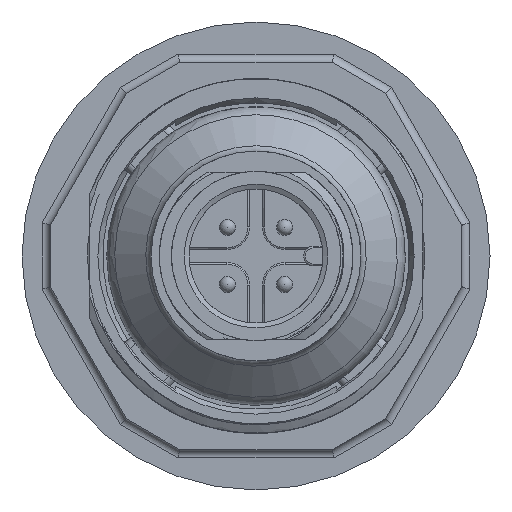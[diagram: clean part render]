
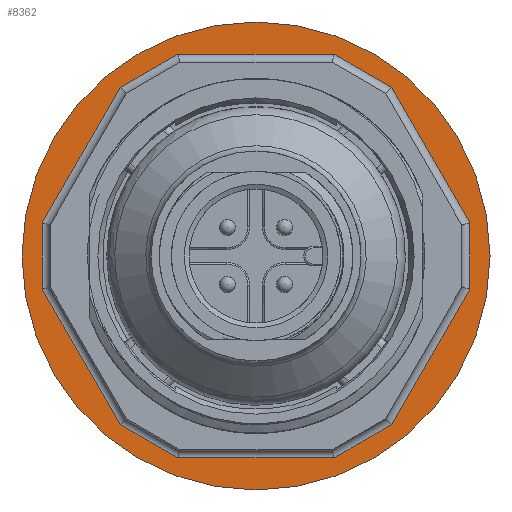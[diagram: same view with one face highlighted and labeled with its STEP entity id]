
A CAD part, front view. The second image highlights one B-rep face of the part: STEP entity #8362.
In plain terms, the highlighted planar face has unit normal (0, -1, 0).
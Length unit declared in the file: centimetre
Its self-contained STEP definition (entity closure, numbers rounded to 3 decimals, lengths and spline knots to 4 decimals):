
#80=FACE_BOUND('',#1792,.T.);
#169=PLANE('',#8866);
#1349=FACE_OUTER_BOUND('',#1791,.T.);
#1791=EDGE_LOOP('',(#7224));
#1792=EDGE_LOOP('',(#7225,#7226,#7227,#7228,#7229,#7230,#7231,#7232,#7233,
#7234,#7235,#7236));
#2161=LINE('',#31747,#2566);
#2163=LINE('',#31755,#2568);
#2165=LINE('',#31761,#2570);
#2167=LINE('',#31767,#2572);
#2169=LINE('',#31773,#2574);
#2171=LINE('',#31779,#2576);
#2173=LINE('',#31785,#2578);
#2175=LINE('',#31791,#2580);
#2177=LINE('',#31797,#2582);
#2179=LINE('',#31803,#2584);
#2181=LINE('',#31809,#2586);
#2183=LINE('',#31814,#2588);
#2566=VECTOR('',#10101,1.);
#2568=VECTOR('',#10109,1.);
#2570=VECTOR('',#10115,1.);
#2572=VECTOR('',#10121,1.);
#2574=VECTOR('',#10127,1.);
#2576=VECTOR('',#10133,1.);
#2578=VECTOR('',#10139,1.);
#2580=VECTOR('',#10145,1.);
#2582=VECTOR('',#10151,1.);
#2584=VECTOR('',#10157,1.);
#2586=VECTOR('',#10163,1.);
#2588=VECTOR('',#10169,1.);
#2832=CIRCLE('',#8867,1.45);
#3598=VERTEX_POINT('',#31745);
#3599=VERTEX_POINT('',#31746);
#3602=VERTEX_POINT('',#31754);
#3604=VERTEX_POINT('',#31760);
#3606=VERTEX_POINT('',#31766);
#3608=VERTEX_POINT('',#31772);
#3610=VERTEX_POINT('',#31778);
#3612=VERTEX_POINT('',#31784);
#3614=VERTEX_POINT('',#31790);
#3616=VERTEX_POINT('',#31796);
#3618=VERTEX_POINT('',#31802);
#3620=VERTEX_POINT('',#31808);
#3629=VERTEX_POINT('',#31843);
#4799=EDGE_CURVE('',#3598,#3599,#2161,.T.);
#4803=EDGE_CURVE('',#3599,#3602,#2163,.T.);
#4806=EDGE_CURVE('',#3602,#3604,#2165,.T.);
#4809=EDGE_CURVE('',#3604,#3606,#2167,.T.);
#4812=EDGE_CURVE('',#3606,#3608,#2169,.T.);
#4815=EDGE_CURVE('',#3608,#3610,#2171,.T.);
#4818=EDGE_CURVE('',#3610,#3612,#2173,.T.);
#4821=EDGE_CURVE('',#3612,#3614,#2175,.T.);
#4824=EDGE_CURVE('',#3614,#3616,#2177,.T.);
#4827=EDGE_CURVE('',#3616,#3618,#2179,.T.);
#4830=EDGE_CURVE('',#3618,#3620,#2181,.T.);
#4833=EDGE_CURVE('',#3620,#3598,#2183,.T.);
#4848=EDGE_CURVE('',#3629,#3629,#2832,.T.);
#7224=ORIENTED_EDGE('',*,*,#4848,.F.);
#7225=ORIENTED_EDGE('',*,*,#4799,.F.);
#7226=ORIENTED_EDGE('',*,*,#4833,.F.);
#7227=ORIENTED_EDGE('',*,*,#4830,.F.);
#7228=ORIENTED_EDGE('',*,*,#4827,.F.);
#7229=ORIENTED_EDGE('',*,*,#4824,.F.);
#7230=ORIENTED_EDGE('',*,*,#4821,.F.);
#7231=ORIENTED_EDGE('',*,*,#4818,.F.);
#7232=ORIENTED_EDGE('',*,*,#4815,.F.);
#7233=ORIENTED_EDGE('',*,*,#4812,.F.);
#7234=ORIENTED_EDGE('',*,*,#4809,.F.);
#7235=ORIENTED_EDGE('',*,*,#4806,.F.);
#7236=ORIENTED_EDGE('',*,*,#4803,.F.);
#8362=ADVANCED_FACE('',(#1349,#80),#169,.F.);
#8866=AXIS2_PLACEMENT_3D('',#31842,#10196,#10197);
#8867=AXIS2_PLACEMENT_3D('',#31844,#10198,#10199);
#10101=DIRECTION('',(0.866,0.,-0.5));
#10109=DIRECTION('',(1.,0.,0.));
#10115=DIRECTION('',(0.866,0.,0.5));
#10121=DIRECTION('',(0.5,0.,0.866));
#10127=DIRECTION('',(0.,0.,1.));
#10133=DIRECTION('',(-0.5,0.,0.866));
#10139=DIRECTION('',(-0.866,0.,0.5));
#10145=DIRECTION('',(-1.,0.,0.));
#10151=DIRECTION('',(-0.866,0.,-0.5));
#10157=DIRECTION('',(-0.5,0.,-0.866));
#10163=DIRECTION('',(0.,0.,-1.));
#10169=DIRECTION('',(0.5,0.,-0.866));
#10196=DIRECTION('center_axis',(0.,1.,0.));
#10197=DIRECTION('ref_axis',(-0.5,0.,0.866));
#10198=DIRECTION('center_axis',(0.,1.,0.));
#10199=DIRECTION('ref_axis',(-0.866,0.,-0.5));
#31745=CARTESIAN_POINT('',(-0.8401,0.33,-1.045));
#31746=CARTESIAN_POINT('',(-0.4849,0.33,-1.25));
#31747=CARTESIAN_POINT('',(-0.5795,0.33,-1.1954));
#31754=CARTESIAN_POINT('',(0.4849,0.33,-1.25));
#31755=CARTESIAN_POINT('',(0.2358,0.33,-1.25));
#31760=CARTESIAN_POINT('',(0.8401,0.33,-1.045));
#31761=CARTESIAN_POINT('',(0.7455,0.33,-1.0996));
#31766=CARTESIAN_POINT('',(1.325,0.33,-0.205));
#31767=CARTESIAN_POINT('',(1.2004,0.33,-0.4208));
#31772=CARTESIAN_POINT('',(1.325,0.33,0.205));
#31773=CARTESIAN_POINT('',(1.325,0.33,0.0958));
#31778=CARTESIAN_POINT('',(0.8401,0.33,1.045));
#31779=CARTESIAN_POINT('',(0.9646,0.33,0.8292));
#31784=CARTESIAN_POINT('',(0.4849,0.33,1.25));
#31785=CARTESIAN_POINT('',(0.5795,0.33,1.1954));
#31790=CARTESIAN_POINT('',(-0.4849,0.33,1.25));
#31791=CARTESIAN_POINT('',(-0.2358,0.33,1.25));
#31796=CARTESIAN_POINT('',(-0.8401,0.33,1.045));
#31797=CARTESIAN_POINT('',(-0.7455,0.33,1.0996));
#31802=CARTESIAN_POINT('',(-1.325,0.33,0.205));
#31803=CARTESIAN_POINT('',(-1.2004,0.33,0.4208));
#31808=CARTESIAN_POINT('',(-1.325,0.33,-0.205));
#31809=CARTESIAN_POINT('',(-1.325,0.33,-0.0958));
#31814=CARTESIAN_POINT('',(-0.9646,0.33,-0.8292));
#31842=CARTESIAN_POINT('Origin',(0.,0.33,0.));
#31843=CARTESIAN_POINT('',(-1.2557,0.33,-0.725));
#31844=CARTESIAN_POINT('Origin',(0.,0.33,0.));
